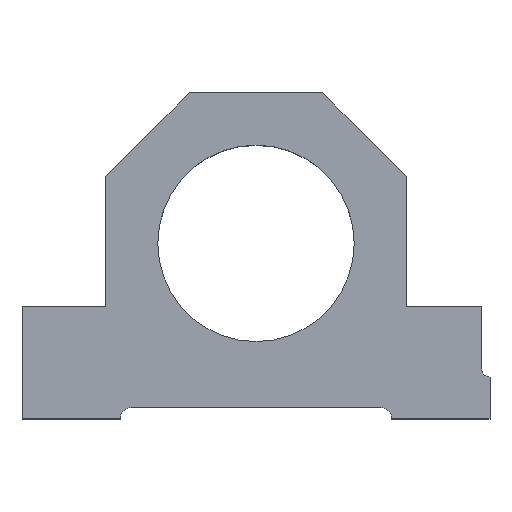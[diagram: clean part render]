
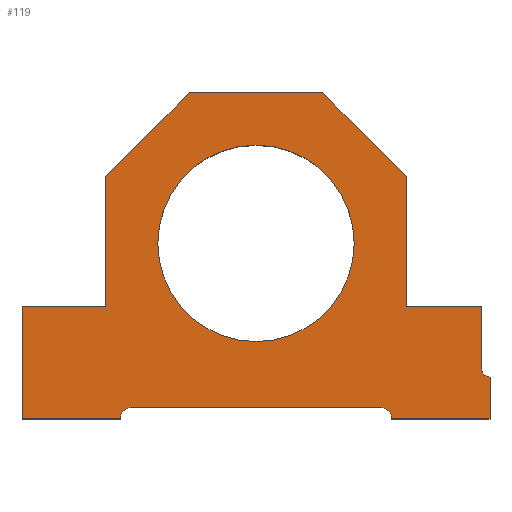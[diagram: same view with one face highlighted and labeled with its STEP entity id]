
A CAD part, top view. The second image highlights one B-rep face of the part: STEP entity #119.
In plain terms, the highlighted planar face has unit normal (0, 0, 1).
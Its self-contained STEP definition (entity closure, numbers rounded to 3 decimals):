
#2 = ORIENTED_EDGE ( 'NONE', *, *, #959, .T. ) ;
#9 = ORIENTED_EDGE ( 'NONE', *, *, #467, .T. ) ;
#10 = ORIENTED_EDGE ( 'NONE', *, *, #120, .T. ) ;
#16 = EDGE_CURVE ( 'NONE', #920, #39, #271, .T. ) ;
#25 = VERTEX_POINT ( 'NONE', #372 ) ;
#31 = EDGE_CURVE ( 'NONE', #376, #916, #416, .T. ) ;
#37 = VERTEX_POINT ( 'NONE', #449 ) ;
#39 = VERTEX_POINT ( 'NONE', #470 ) ;
#44 = EDGE_CURVE ( 'NONE', #207, #108, #473, .T. ) ;
#56 = EDGE_CURVE ( 'NONE', #916, #37, #560, .T. ) ;
#58 = ORIENTED_EDGE ( 'NONE', *, *, #44, .T. ) ;
#69 = ORIENTED_EDGE ( 'NONE', *, *, #16, .T. ) ;
#80 = EDGE_CURVE ( 'NONE', #169, #376, #742, .T. ) ;
#97 = EDGE_CURVE ( 'NONE', #665, #956, #192, .T. ) ;
#99 = EDGE_LOOP ( 'NONE', ( #281, #107, #146, #9, #950, #908, #2, #894, #319, #69, #10, #164, #909, #504, #58, #937 ) ) ;
#106 = EDGE_CURVE ( 'NONE', #896, #665, #204, .T. ) ;
#107 = ORIENTED_EDGE ( 'NONE', *, *, #31, .T. ) ;
#108 = VERTEX_POINT ( 'NONE', #214 ) ;
#109 = VERTEX_POINT ( 'NONE', #215 ) ;
#115 = EDGE_CURVE ( 'NONE', #356, #949, #226, .T. ) ;
#119 = ADVANCED_FACE ( 'NONE', ( #238, #239 ), #240, .T. ) ;
#120 = EDGE_CURVE ( 'NONE', #39, #356, #250, .T. ) ;
#133 = EDGE_CURVE ( 'NONE', #109, #207, #288, .T. ) ;
#146 = ORIENTED_EDGE ( 'NONE', *, *, #56, .T. ) ;
#147 = VERTEX_POINT ( 'NONE', #373 ) ;
#152 = VERTEX_POINT ( 'NONE', #389 ) ;
#154 = EDGE_CURVE ( 'NONE', #892, #147, #396, .T. ) ;
#164 = ORIENTED_EDGE ( 'NONE', *, *, #115, .T. ) ;
#169 = VERTEX_POINT ( 'NONE', #468 ) ;
#192 = LINE ( 'NONE', #193, #194 ) ;
#193 = CARTESIAN_POINT ( 'NONE',  ( 32.5, 0., 17. ) ) ;
#194 = VECTOR ( 'NONE', #195, 1000. ) ;
#195 = DIRECTION ( 'NONE',  ( 1., 0., 0. ) ) ;
#197 = CARTESIAN_POINT ( 'NONE',  ( 56., 10., 17. ) ) ;
#199 = CARTESIAN_POINT ( 'NONE',  ( 29.8, 2.7, 17. ) ) ;
#204 = CIRCLE ( 'NONE', #205, 2.7 ) ;
#205 = AXIS2_PLACEMENT_3D ( 'NONE', #206, #212, #213 ) ;
#206 = CARTESIAN_POINT ( 'NONE',  ( 29.8, 0., 17. ) ) ;
#207 = VERTEX_POINT ( 'NONE', #482 ) ;
#212 = DIRECTION ( 'NONE',  ( 0., 0., -1. ) ) ;
#213 = DIRECTION ( 'NONE',  ( -1., 0., 0. ) ) ;
#214 = CARTESIAN_POINT ( 'NONE',  ( -36., 27., 17. ) ) ;
#215 = CARTESIAN_POINT ( 'NONE',  ( -16., 78., 17. ) ) ;
#226 = LINE ( 'NONE', #227, #230 ) ;
#227 = CARTESIAN_POINT ( 'NONE',  ( 36., 58., 17. ) ) ;
#230 = VECTOR ( 'NONE', #231, 1000. ) ;
#231 = DIRECTION ( 'NONE',  ( -0.707, 0.707, 0. ) ) ;
#238 = FACE_OUTER_BOUND ( 'NONE', #99, .T. ) ;
#239 = FACE_BOUND ( 'NONE', #666, .T. ) ;
#240 = PLANE ( 'NONE',  #241 ) ;
#241 = AXIS2_PLACEMENT_3D ( 'NONE', #242, #243, #244 ) ;
#242 = CARTESIAN_POINT ( 'NONE',  ( -56., 12., 17. ) ) ;
#243 = DIRECTION ( 'NONE',  ( 0., 0., 1. ) ) ;
#244 = DIRECTION ( 'NONE',  ( 1., 0., 0. ) ) ;
#250 = LINE ( 'NONE', #251, #252 ) ;
#251 = CARTESIAN_POINT ( 'NONE',  ( 36., 27., 17. ) ) ;
#252 = VECTOR ( 'NONE', #253, 1000. ) ;
#253 = DIRECTION ( 'NONE',  ( 0., 1., 0. ) ) ;
#271 = LINE ( 'NONE', #272, #273 ) ;
#272 = CARTESIAN_POINT ( 'NONE',  ( 54., 27., 17. ) ) ;
#273 = VECTOR ( 'NONE', #274, 1000. ) ;
#274 = DIRECTION ( 'NONE',  ( -1., 0., 0. ) ) ;
#281 = ORIENTED_EDGE ( 'NONE', *, *, #80, .T. ) ;
#288 = LINE ( 'NONE', #289, #290 ) ;
#289 = CARTESIAN_POINT ( 'NONE',  ( -36., 58., 17. ) ) ;
#290 = VECTOR ( 'NONE', #291, 1000. ) ;
#291 = DIRECTION ( 'NONE',  ( -0.707, -0.707, 0. ) ) ;
#319 = ORIENTED_EDGE ( 'NONE', *, *, #943, .T. ) ;
#355 = EDGE_CURVE ( 'NONE', #949, #109, #571, .T. ) ;
#356 = VERTEX_POINT ( 'NONE', #580 ) ;
#372 = CARTESIAN_POINT ( 'NONE',  ( -23.5, 42., 17. ) ) ;
#373 = CARTESIAN_POINT ( 'NONE',  ( 54., 12., 17. ) ) ;
#376 = VERTEX_POINT ( 'NONE', #591 ) ;
#389 = CARTESIAN_POINT ( 'NONE',  ( 23.5, 42., 17. ) ) ;
#396 = CIRCLE ( 'NONE', #397, 2. ) ;
#397 = AXIS2_PLACEMENT_3D ( 'NONE', #398, #399, #400 ) ;
#398 = CARTESIAN_POINT ( 'NONE',  ( 56., 12., 17. ) ) ;
#399 = DIRECTION ( 'NONE',  ( 0., 0., -1. ) ) ;
#400 = DIRECTION ( 'NONE',  ( -1., 0., 0. ) ) ;
#416 = LINE ( 'NONE', #417, #418 ) ;
#417 = CARTESIAN_POINT ( 'NONE',  ( -32.5, 0., 17. ) ) ;
#418 = VECTOR ( 'NONE', #419, 1000. ) ;
#419 = DIRECTION ( 'NONE',  ( 1., 0., 0. ) ) ;
#449 = CARTESIAN_POINT ( 'NONE',  ( -29.8, 2.7, 17. ) ) ;
#467 = EDGE_CURVE ( 'NONE', #37, #896, #620, .T. ) ;
#468 = CARTESIAN_POINT ( 'NONE',  ( -56., 27., 17. ) ) ;
#470 = CARTESIAN_POINT ( 'NONE',  ( 36., 27., 17. ) ) ;
#472 = CARTESIAN_POINT ( 'NONE',  ( -32.5, 0., 17. ) ) ;
#473 = LINE ( 'NONE', #474, #475 ) ;
#474 = CARTESIAN_POINT ( 'NONE',  ( -36., 27., 17. ) ) ;
#475 = VECTOR ( 'NONE', #476, 1000. ) ;
#476 = DIRECTION ( 'NONE',  ( 0., -1., 0. ) ) ;
#482 = CARTESIAN_POINT ( 'NONE',  ( -36., 58., 17. ) ) ;
#504 = ORIENTED_EDGE ( 'NONE', *, *, #133, .T. ) ;
#507 = CARTESIAN_POINT ( 'NONE',  ( 54., 27., 17. ) ) ;
#560 = CIRCLE ( 'NONE', #561, 2.7 ) ;
#561 = AXIS2_PLACEMENT_3D ( 'NONE', #562, #563, #564 ) ;
#562 = CARTESIAN_POINT ( 'NONE',  ( -29.8, 0., 17. ) ) ;
#563 = DIRECTION ( 'NONE',  ( 0., 0., -1. ) ) ;
#564 = DIRECTION ( 'NONE',  ( 1., 0., 0. ) ) ;
#571 = LINE ( 'NONE', #572, #573 ) ;
#572 = CARTESIAN_POINT ( 'NONE',  ( -16., 78., 17. ) ) ;
#573 = VECTOR ( 'NONE', #579, 1000. ) ;
#574 = EDGE_CURVE ( 'NONE', #25, #152, #674, .T. ) ;
#579 = DIRECTION ( 'NONE',  ( -1., 0., 0. ) ) ;
#580 = CARTESIAN_POINT ( 'NONE',  ( 36., 58., 17. ) ) ;
#591 = CARTESIAN_POINT ( 'NONE',  ( -56., 0., 17. ) ) ;
#620 = LINE ( 'NONE', #621, #622 ) ;
#621 = CARTESIAN_POINT ( 'NONE',  ( -29.8, 2.7, 17. ) ) ;
#622 = VECTOR ( 'NONE', #623, 1000. ) ;
#623 = DIRECTION ( 'NONE',  ( 1., 0., 0. ) ) ;
#665 = VERTEX_POINT ( 'NONE', #725 ) ;
#666 = EDGE_LOOP ( 'NONE', ( #720, #902 ) ) ;
#674 = CIRCLE ( 'NONE', #675, 23.5 ) ;
#675 = AXIS2_PLACEMENT_3D ( 'NONE', #676, #677, #678 ) ;
#676 = CARTESIAN_POINT ( 'NONE',  ( 0., 42., 17. ) ) ;
#677 = DIRECTION ( 'NONE',  ( 0., 0., 1. ) ) ;
#678 = DIRECTION ( 'NONE',  ( 1., 0., 0. ) ) ;
#680 = LINE ( 'NONE', #681, #682 ) ;
#681 = CARTESIAN_POINT ( 'NONE',  ( 54., 12., 17. ) ) ;
#682 = VECTOR ( 'NONE', #683, 1000. ) ;
#683 = DIRECTION ( 'NONE',  ( 0., 1., 0. ) ) ;
#698 = CARTESIAN_POINT ( 'NONE',  ( 16., 78., 17. ) ) ;
#720 = ORIENTED_EDGE ( 'NONE', *, *, #574, .F. ) ;
#725 = CARTESIAN_POINT ( 'NONE',  ( 32.5, 0., 17. ) ) ;
#741 = CARTESIAN_POINT ( 'NONE',  ( 56., 0., 17. ) ) ;
#742 = LINE ( 'NONE', #743, #744 ) ;
#743 = CARTESIAN_POINT ( 'NONE',  ( -56., 0., 17. ) ) ;
#744 = VECTOR ( 'NONE', #745, 1000. ) ;
#745 = DIRECTION ( 'NONE',  ( 0., -1., 0. ) ) ;
#754 = LINE ( 'NONE', #755, #760 ) ;
#755 = CARTESIAN_POINT ( 'NONE',  ( -54., 27., 17. ) ) ;
#757 = EDGE_CURVE ( 'NONE', #108, #169, #754, .T. ) ;
#760 = VECTOR ( 'NONE', #761, 1000. ) ;
#761 = DIRECTION ( 'NONE',  ( -1., 0., 0. ) ) ;
#768 = LINE ( 'NONE', #769, #770 ) ;
#769 = CARTESIAN_POINT ( 'NONE',  ( 56., 0., 17. ) ) ;
#770 = VECTOR ( 'NONE', #771, 1000. ) ;
#771 = DIRECTION ( 'NONE',  ( 0., 1., 0. ) ) ;
#772 = CIRCLE ( 'NONE', #773, 23.5 ) ;
#773 = AXIS2_PLACEMENT_3D ( 'NONE', #774, #775, #776 ) ;
#774 = CARTESIAN_POINT ( 'NONE',  ( 0., 42., 17. ) ) ;
#775 = DIRECTION ( 'NONE',  ( 0., 0., 1. ) ) ;
#776 = DIRECTION ( 'NONE',  ( 1., 0., 0. ) ) ;
#795 = EDGE_CURVE ( 'NONE', #152, #25, #772, .T. ) ;
#892 = VERTEX_POINT ( 'NONE', #197 ) ;
#894 = ORIENTED_EDGE ( 'NONE', *, *, #154, .T. ) ;
#896 = VERTEX_POINT ( 'NONE', #199 ) ;
#902 = ORIENTED_EDGE ( 'NONE', *, *, #795, .F. ) ;
#908 = ORIENTED_EDGE ( 'NONE', *, *, #97, .T. ) ;
#909 = ORIENTED_EDGE ( 'NONE', *, *, #355, .T. ) ;
#916 = VERTEX_POINT ( 'NONE', #472 ) ;
#920 = VERTEX_POINT ( 'NONE', #507 ) ;
#937 = ORIENTED_EDGE ( 'NONE', *, *, #757, .T. ) ;
#943 = EDGE_CURVE ( 'NONE', #147, #920, #680, .T. ) ;
#949 = VERTEX_POINT ( 'NONE', #698 ) ;
#950 = ORIENTED_EDGE ( 'NONE', *, *, #106, .T. ) ;
#956 = VERTEX_POINT ( 'NONE', #741 ) ;
#959 = EDGE_CURVE ( 'NONE', #956, #892, #768, .T. ) ;
